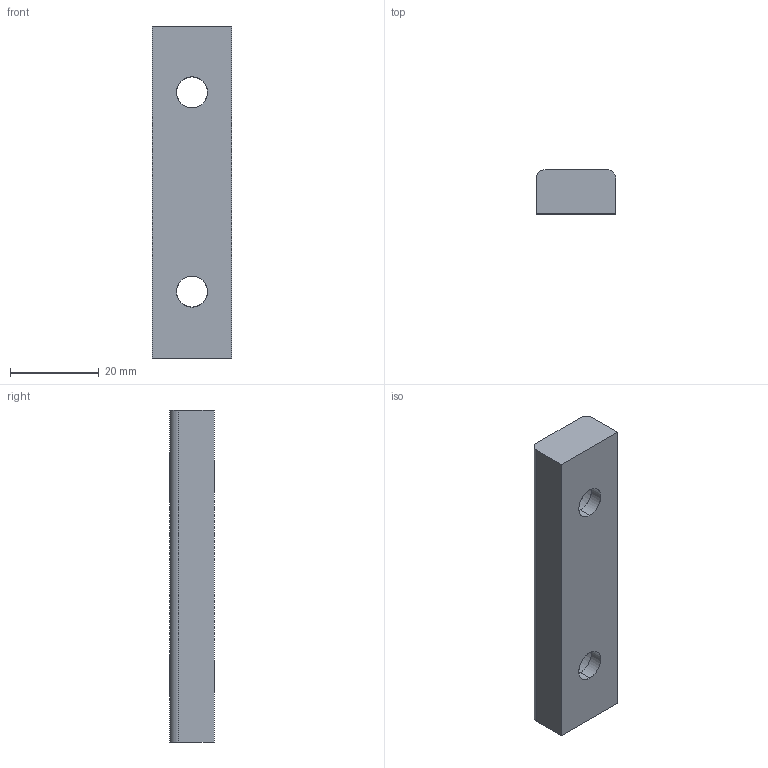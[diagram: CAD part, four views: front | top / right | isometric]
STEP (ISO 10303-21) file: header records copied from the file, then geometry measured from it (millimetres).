
FILE_DESCRIPTION(('CATIA V5 STEP Exchange'),'2;1');
FILE_NAME('C:\Users\Utente\Desktop\3D files A606\A606-018-075.stp','2020-04-13T18:08:32+00:00',('none'),('none'),'CATIA Version 5 Release 20 GA (IN-10)','CATIA V5 STEP AP203','none');
FILE_SCHEMA(('CONFIG_CONTROL_DESIGN'));
Length unit declared in the file: millimetre
Products named in the file (1): Noname
Bounding box: 18 x 10 x 75 mm (x, y, z)
Surface area: 4889.6 mm2 (no closed solid volume)
Topology: 0 solids, 14 shells, 18 faces, 76 edges, 68 vertices
Faces by surface type: cylinder 10, extrusion 8
Entity records: 1044 total; most frequent: CARTESIAN_POINT 415, DIRECTION 84, ORIENTED_EDGE 84, EDGE_CURVE 76, VERTEX_POINT 68, VECTOR 44, LINE 36, AXIS2_PLACEMENT_3D 31
